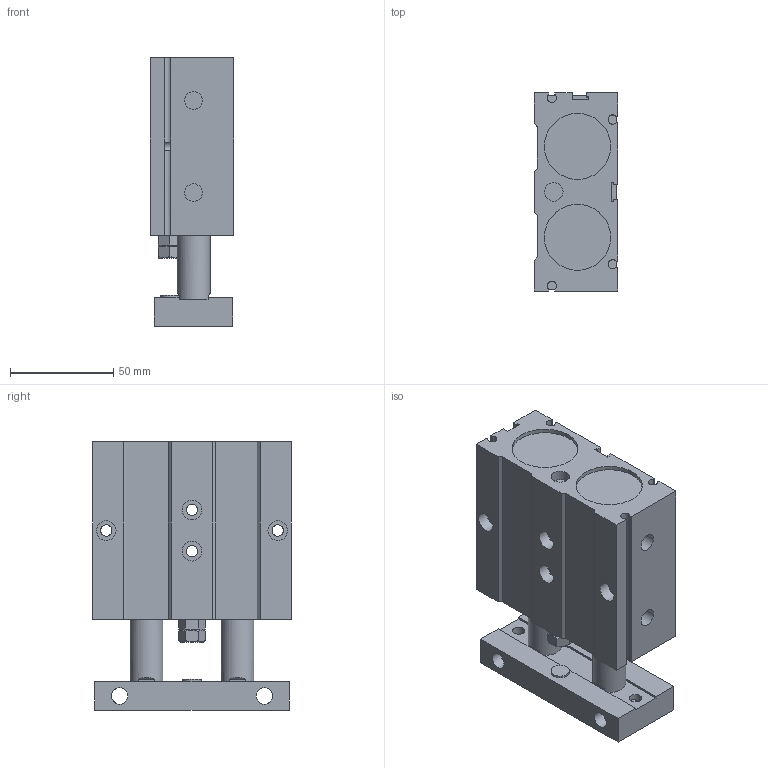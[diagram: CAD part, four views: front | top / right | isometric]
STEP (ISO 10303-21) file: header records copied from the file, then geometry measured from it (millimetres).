
FILE_DESCRIPTION((''),'2;1');
FILE_NAME('I:\3D電子目錄\氣缸\TD\TD32\TD32\TD32x20.stp','2007-08-06T10:17:51',('Administrator'),(''),'Autodesk Inventor 2008','Autodesk Inventor 2008','');
FILE_SCHEMA(('AUTOMOTIVE_DESIGN { 1 0 10303 214 1 1 1 1 }'));
Length unit declared in the file: millimetre
Products named in the file (1): TD32X20
Bounding box: 40.5 x 96 x 130 mm (x, y, z)
Volume: 361326.6 mm3; surface area: 57926.6 mm2
Topology: 1 solids, 3 shells, 174 faces, 436 edges, 288 vertices
Faces by surface type: plane 125, cylinder 36, cone 7, bspline 4, torus 2
Full cylindrical faces by diameter (mm): 5.5 x4, 6 x2, 8 x2, 8.5 x2, 9 x2, 9.5 x8, 12 x2, 13 x2, 14 x2, 16 x2, 32 x4
Entity records: 5443 total; most frequent: CARTESIAN_POINT 1396, DIRECTION 803, ORIENTED_EDGE 770, EDGE_CURVE 385, VERTEX_POINT 278, AXIS2_PLACEMENT_3D 271, EDGE_LOOP 265, VECTOR 261
